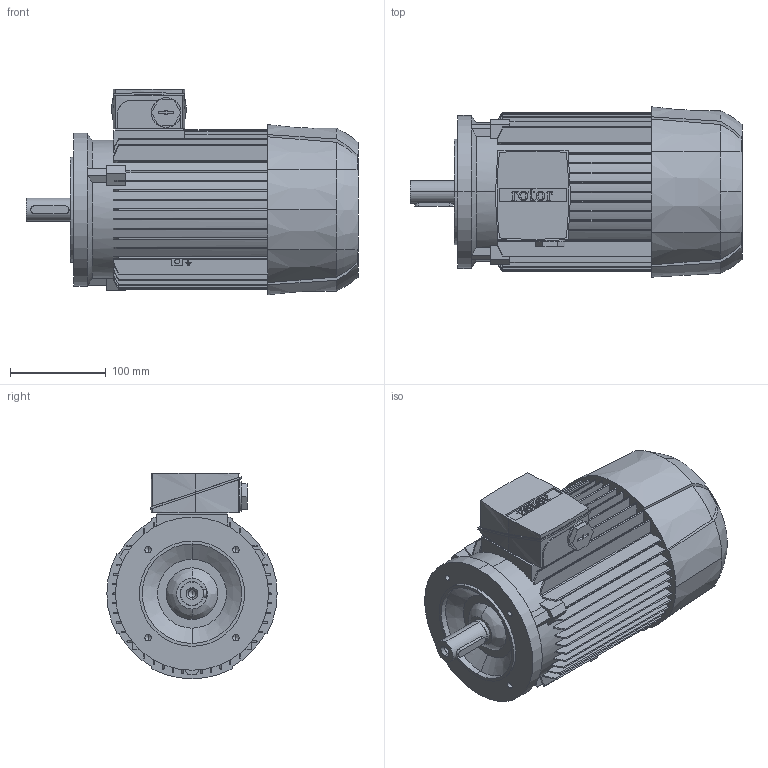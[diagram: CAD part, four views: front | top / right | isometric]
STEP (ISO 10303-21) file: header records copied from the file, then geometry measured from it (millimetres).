
FILE_DESCRIPTION (( 'STEP AP214' ), '1' );
FILE_NAME ('6RN90S06E10 IM3641-B.STEP', '2017-03-13T13:05:13', ( 'rotor' ), ( 'Hewlett-Packard Company' ), 'SwSTEP 2.0', 'SolidWorks 2015', '' );
FILE_SCHEMA (( 'AUTOMOTIVE_DESIGN' ));
Length unit declared in the file: millimetre
Products named in the file (1): 6RN90S06E10 IM3641-B
Bounding box: 347 x 178 x 215 mm (x, y, z)
Volume: 5973703.2 mm3; surface area: 392705.4 mm2
Topology: 1 solids, 1 shells, 574 faces, 1615 edges, 1063 vertices
Faces by surface type: plane 331, cylinder 117, bspline 99, cone 27
Entity records: 26671 total; most frequent: CARTESIAN_POINT 7087, ORIENTED_EDGE 3210, DIRECTION 2631, EDGE_CURVE 1605, VERTEX_POINT 1063, VECTOR 945, LINE 945, AXIS2_PLACEMENT_3D 843
